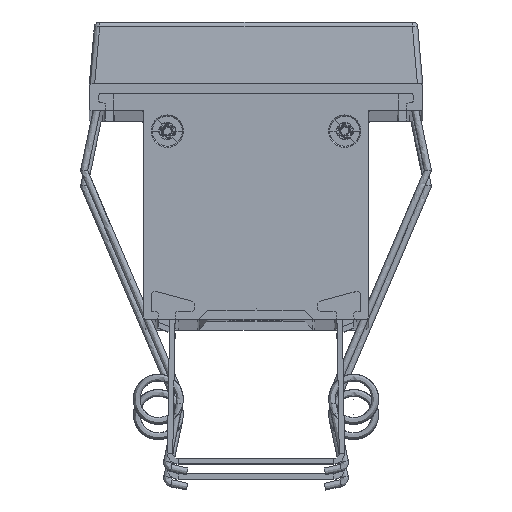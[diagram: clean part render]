
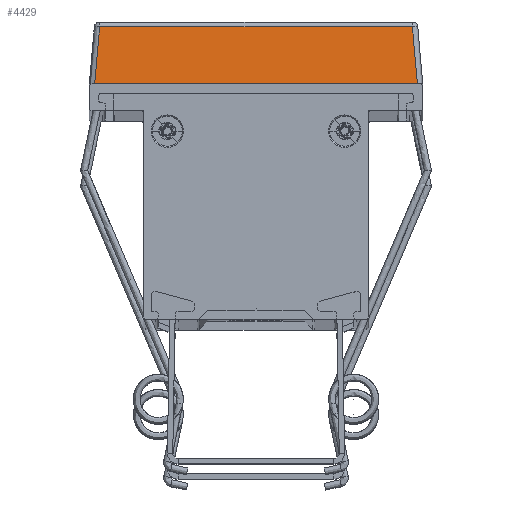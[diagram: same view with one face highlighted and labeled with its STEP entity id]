
A CAD part, top view. The second image highlights one B-rep face of the part: STEP entity #4429.
In plain terms, the highlighted planar face has unit normal (0, 0.087, 0.996) as drawn and (-0.996, 0.087, 0) by its records, which use the part's own axes.
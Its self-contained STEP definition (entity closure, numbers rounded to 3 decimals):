
#371 = VERTEX_POINT ( 'NONE', #3391 ) ;
#922 = CARTESIAN_POINT ( 'NONE',  ( -143.5, 0., 31. ) ) ;
#1274 = ORIENTED_EDGE ( 'NONE', *, *, #17620, .T. ) ;
#2321 = VERTEX_POINT ( 'NONE', #17563 ) ;
#2933 = FACE_OUTER_BOUND ( 'NONE', #5744, .T. ) ;
#3370 = LINE ( 'NONE', #11803, #10279 ) ;
#3391 = CARTESIAN_POINT ( 'NONE',  ( -142.574, 10.587, 29.078 ) ) ;
#3720 = DIRECTION ( 'NONE',  ( -0.996, 0.087, 0. ) ) ;
#4429 = ADVANCED_FACE ( 'NONE', ( #2933 ), #17310, .T. ) ;
#4610 = ORIENTED_EDGE ( 'NONE', *, *, #10158, .T. ) ;
#5055 = CARTESIAN_POINT ( 'NONE',  ( -143.5, 0., 31. ) ) ;
#5280 = VERTEX_POINT ( 'NONE', #7373 ) ;
#5744 = EDGE_LOOP ( 'NONE', ( #15323, #1274, #10533, #4610 ) ) ;
#6711 = VECTOR ( 'NONE', #13324, 1000. ) ;
#7134 = DIRECTION ( 'NONE',  ( 0.087, 0.992, -0.087 ) ) ;
#7373 = CARTESIAN_POINT ( 'NONE',  ( -143.5, 0., 30.004 ) ) ;
#8185 = LINE ( 'NONE', #14510, #11883 ) ;
#8489 = CARTESIAN_POINT ( 'NONE',  ( -143.508, -0.086, 30.011 ) ) ;
#9043 = DIRECTION ( 'NONE',  ( 0., 0., -1. ) ) ;
#9921 = VECTOR ( 'NONE', #7134, 1000. ) ;
#9936 = AXIS2_PLACEMENT_3D ( 'NONE', #922, #3720, #13359 ) ;
#9947 = EDGE_CURVE ( 'NONE', #2321, #5280, #10802, .T. ) ;
#10158 = EDGE_CURVE ( 'NONE', #10745, #2321, #8185, .T. ) ;
#10279 = VECTOR ( 'NONE', #9043, 1000. ) ;
#10533 = ORIENTED_EDGE ( 'NONE', *, *, #12564, .T. ) ;
#10745 = VERTEX_POINT ( 'NONE', #12992 ) ;
#10802 = LINE ( 'NONE', #5055, #6711 ) ;
#11803 = CARTESIAN_POINT ( 'NONE',  ( -142.574, 10.587, -29.994 ) ) ;
#11883 = VECTOR ( 'NONE', #15836, 1000. ) ;
#12564 = EDGE_CURVE ( 'NONE', #371, #10745, #3370, .T. ) ;
#12992 = CARTESIAN_POINT ( 'NONE',  ( -142.574, 10.587, -29.078 ) ) ;
#13324 = DIRECTION ( 'NONE',  ( 0., 0., 1. ) ) ;
#13359 = DIRECTION ( 'NONE',  ( -0.087, -0.996, 0. ) ) ;
#13574 = LINE ( 'NONE', #8489, #9921 ) ;
#14510 = CARTESIAN_POINT ( 'NONE',  ( -143.04, 5.257, -29.544 ) ) ;
#15323 = ORIENTED_EDGE ( 'NONE', *, *, #9947, .T. ) ;
#15836 = DIRECTION ( 'NONE',  ( -0.087, -0.992, -0.087 ) ) ;
#17310 = PLANE ( 'NONE',  #9936 ) ;
#17563 = CARTESIAN_POINT ( 'NONE',  ( -143.5, 0., -30.004 ) ) ;
#17620 = EDGE_CURVE ( 'NONE', #5280, #371, #13574, .T. ) ;
